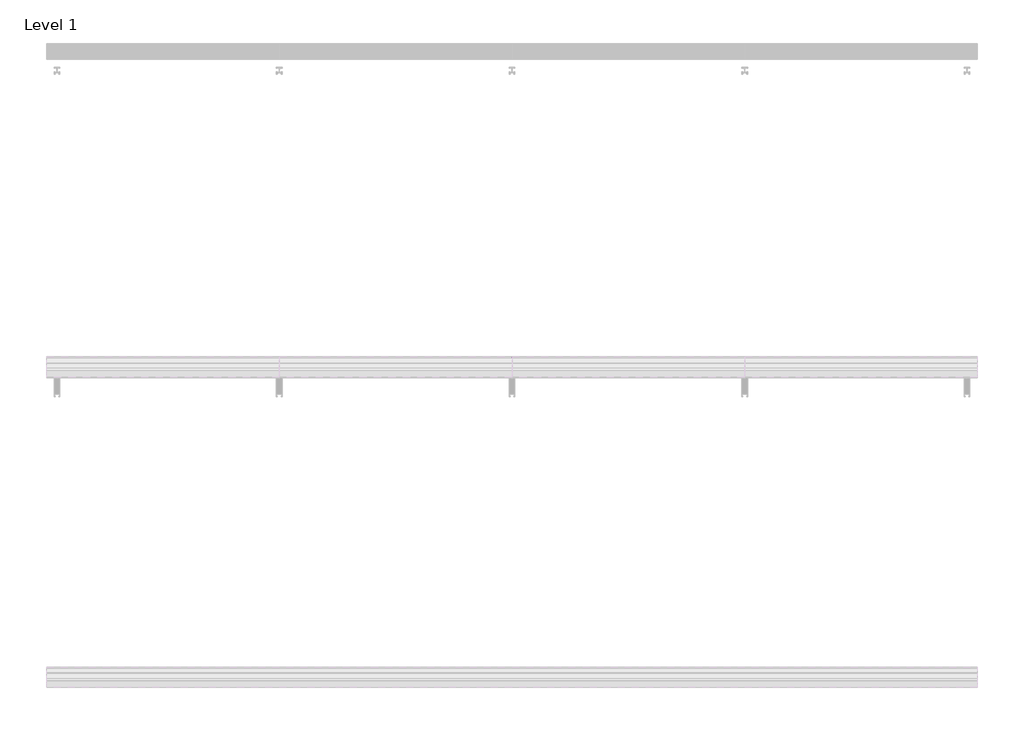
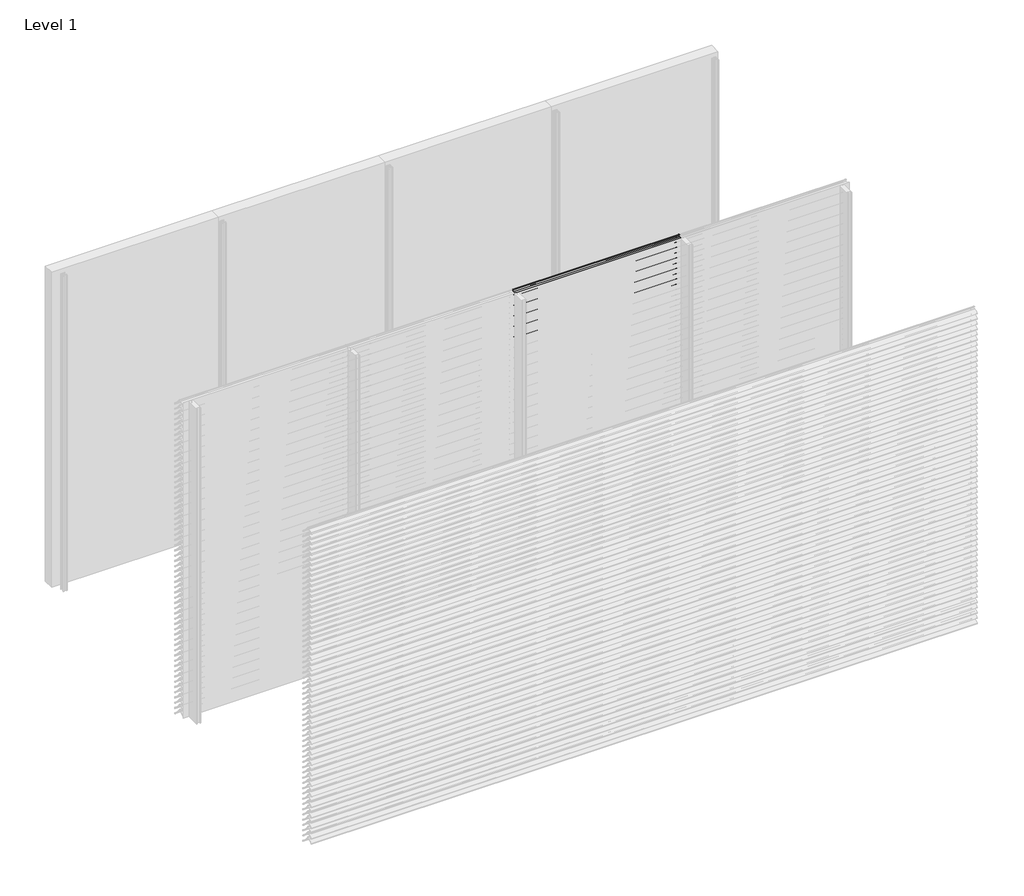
# One storey, part 30 of 173: 18 proxies.
"""IFC4 building model written with IfcOpenShell, lengths in millimetres."""

from ifc_helpers import new_model, si_unit, point, frame, frame_2d, origin, place, context, project, spatial, polyline, circle_curve, trimmed, segment, composite_curve, outline, extrude, element, save

model = new_model("IFC4")

# Units and contexts
model_context = context("Model", 3, world=origin())
ifc_project = project(units=[si_unit("LENGTHUNIT", "METRE", prefix="MILLI")], contexts=[model_context])

# Site, building, storey
site = spatial("IfcSite", under=ifc_project)
building = spatial("IfcBuilding", under=site)
storey = spatial("IfcBuildingStorey", under=building, Name="Level 1", Elevation=0.0)

# Proxies
placement = place(None, origin())
element("IfcBuildingElementProxy", 1, Name="Wall Sweeps", at=placement, inside=storey, context=model_context, shape_type="SweptSolid", body=[
    extrude(outline(composite_curve([segment(polyline([(-47998.0, 359.1474905), (-47998.0, 361.6227417)]), True, "CONTINUOUS"), segment(trimmed(circle_curve(frame_2d((-47951.2682172, 316.2200208)), 65.1557103), [point((-47998.0, 361.6227417))], [point((-47954.4014323, 381.3003524))], False, "CARTESIAN"), True, "CONTINUOUS"), segment(polyline([(-47954.4014323, 381.3003524), (-47934.8315836, 381.3003524)]), True, "CONTINUOUS"), segment(trimmed(circle_curve(frame_2d((-47732.7329489, 528.5533172)), 250.0545817), [point((-47934.8315836, 381.3003524))], [point((-47941.4452143, 390.8344583))], False, "CARTESIAN"), True, "CONTINUOUS"), segment(trimmed(circle_curve(frame_2d((-47953.2981792, 385.1737835)), 13.1352966), [point((-47941.4452143, 390.8344583))], [point((-47953.8171475, 398.298824))], True, "CARTESIAN"), True, "CONTINUOUS"), segment(polyline([(-47953.8171475, 398.298824), (-47953.8171475, 400.0)]), True, "CONTINUOUS"), segment(trimmed(circle_curve(frame_2d((-47953.2981792, 385.1737835)), 14.8352966), [point((-47953.8171475, 400.0))], [point((-47939.9637661, 391.6760487))], False, "CARTESIAN"), True, "CONTINUOUS"), segment(trimmed(circle_curve(frame_2d((-47732.7329489, 528.5533172)), 248.3545817), [point((-47939.9637661, 391.6760487))], [point((-47873.8787895, 324.2059416))], True, "CARTESIAN"), True, "CONTINUOUS"), segment(trimmed(circle_curve(frame_2d((-47883.8147537, 311.6649442)), 16.0), [point((-47873.8787895, 324.2059416))], [point((-47867.8648347, 310.4))], False, "CARTESIAN"), True, "CONTINUOUS"), segment(polyline([(-47867.8648347, 310.4), (-47869.6712069, 310.4)]), True, "CONTINUOUS"), segment(trimmed(circle_curve(frame_2d((-47883.8147537, 311.6649442)), 14.2), [point((-47869.6712069, 310.4))], [point((-47874.9518628, 322.7594998))], True, "CARTESIAN"), True, "CONTINUOUS"), segment(trimmed(circle_curve(frame_2d((-47732.7329489, 528.5533172)), 250.1545817), [point((-47874.9518628, 322.7594998))], [point((-47933.7064024, 379.6003524))], False, "CARTESIAN"), True, "CONTINUOUS"), segment(polyline([(-47933.7064024, 379.6003524), (-47954.3602632, 379.6003524)]), True, "CONTINUOUS"), segment(trimmed(circle_curve(frame_2d((-47951.2682172, 316.2200208)), 63.4557103), [point((-47954.3602632, 379.6003524))], [point((-47998.0, 359.1474905))], True, "CARTESIAN"), True, "CONTINUOUS")], self_intersect=False)), frame((1500.0, 0.0, 0.0), z_axis=(1.0, 0.0, 0.0), x_axis=(0.0, 1.0, 0.0)), (0.0, 0.0, 1.0), 1500.0),
])
element("IfcBuildingElementProxy", 2, Name="Wall Sweeps", at=placement, inside=storey, context=model_context, shape_type="SweptSolid", body=[
    extrude(outline(composite_curve([segment(polyline([(-47998.0, 309.1474905), (-47998.0, 311.6227417)]), True, "CONTINUOUS"), segment(trimmed(circle_curve(frame_2d((-47951.2682172, 266.2200208)), 65.1557103), [point((-47998.0, 311.6227417))], [point((-47954.4014323, 331.3003524))], False, "CARTESIAN"), True, "CONTINUOUS"), segment(polyline([(-47954.4014323, 331.3003524), (-47934.8315836, 331.3003524)]), True, "CONTINUOUS"), segment(trimmed(circle_curve(frame_2d((-47732.7329489, 478.5533172)), 250.0545817), [point((-47934.8315836, 331.3003524))], [point((-47941.4452143, 340.8344583))], False, "CARTESIAN"), True, "CONTINUOUS"), segment(trimmed(circle_curve(frame_2d((-47953.2981792, 335.1737835)), 13.1352966), [point((-47941.4452143, 340.8344583))], [point((-47953.8171475, 348.298824))], True, "CARTESIAN"), True, "CONTINUOUS"), segment(polyline([(-47953.8171475, 348.298824), (-47953.8171475, 350.0)]), True, "CONTINUOUS"), segment(trimmed(circle_curve(frame_2d((-47953.2981792, 335.1737835)), 14.8352966), [point((-47953.8171475, 350.0))], [point((-47939.9637661, 341.6760487))], False, "CARTESIAN"), True, "CONTINUOUS"), segment(trimmed(circle_curve(frame_2d((-47732.7329489, 478.5533172)), 248.3545817), [point((-47939.9637661, 341.6760487))], [point((-47873.8787895, 274.2059416))], True, "CARTESIAN"), True, "CONTINUOUS"), segment(trimmed(circle_curve(frame_2d((-47883.8147537, 261.6649442)), 16.0), [point((-47873.8787895, 274.2059416))], [point((-47867.8648347, 260.4))], False, "CARTESIAN"), True, "CONTINUOUS"), segment(polyline([(-47867.8648347, 260.4), (-47869.6712069, 260.4)]), True, "CONTINUOUS"), segment(trimmed(circle_curve(frame_2d((-47883.8147537, 261.6649442)), 14.2), [point((-47869.6712069, 260.4))], [point((-47874.9518628, 272.7594998))], True, "CARTESIAN"), True, "CONTINUOUS"), segment(trimmed(circle_curve(frame_2d((-47732.7329489, 478.5533172)), 250.1545817), [point((-47874.9518628, 272.7594998))], [point((-47933.7064024, 329.6003524))], False, "CARTESIAN"), True, "CONTINUOUS"), segment(polyline([(-47933.7064024, 329.6003524), (-47954.3602632, 329.6003524)]), True, "CONTINUOUS"), segment(trimmed(circle_curve(frame_2d((-47951.2682172, 266.2200208)), 63.4557103), [point((-47954.3602632, 329.6003524))], [point((-47998.0, 309.1474905))], True, "CARTESIAN"), True, "CONTINUOUS")], self_intersect=False)), frame((1500.0, 0.0, 0.0), z_axis=(1.0, 0.0, 0.0), x_axis=(0.0, 1.0, 0.0)), (0.0, 0.0, 1.0), 1500.0),
])
element("IfcBuildingElementProxy", 3, Name="Wall Sweeps", at=placement, inside=storey, context=model_context, shape_type="SweptSolid", body=[
    extrude(outline(composite_curve([segment(polyline([(-47998.0, 259.1474905), (-47998.0, 261.6227417)]), True, "CONTINUOUS"), segment(trimmed(circle_curve(frame_2d((-47951.2682172, 216.2200208)), 65.1557103), [point((-47998.0, 261.6227417))], [point((-47954.4014323, 281.3003524))], False, "CARTESIAN"), True, "CONTINUOUS"), segment(polyline([(-47954.4014323, 281.3003524), (-47934.8315836, 281.3003524)]), True, "CONTINUOUS"), segment(trimmed(circle_curve(frame_2d((-47732.7329489, 428.5533172)), 250.0545817), [point((-47934.8315836, 281.3003524))], [point((-47941.4452143, 290.8344583))], False, "CARTESIAN"), True, "CONTINUOUS"), segment(trimmed(circle_curve(frame_2d((-47953.2981792, 285.1737835)), 13.1352966), [point((-47941.4452143, 290.8344583))], [point((-47953.8171475, 298.298824))], True, "CARTESIAN"), True, "CONTINUOUS"), segment(polyline([(-47953.8171475, 298.298824), (-47953.8171475, 300.0)]), True, "CONTINUOUS"), segment(trimmed(circle_curve(frame_2d((-47953.2981792, 285.1737835)), 14.8352966), [point((-47953.8171475, 300.0))], [point((-47939.9637661, 291.6760487))], False, "CARTESIAN"), True, "CONTINUOUS"), segment(trimmed(circle_curve(frame_2d((-47732.7329489, 428.5533172)), 248.3545817), [point((-47939.9637661, 291.6760487))], [point((-47873.8787895, 224.2059416))], True, "CARTESIAN"), True, "CONTINUOUS"), segment(trimmed(circle_curve(frame_2d((-47883.8147537, 211.6649442)), 16.0), [point((-47873.8787895, 224.2059416))], [point((-47867.8648347, 210.4))], False, "CARTESIAN"), True, "CONTINUOUS"), segment(polyline([(-47867.8648347, 210.4), (-47869.6712069, 210.4)]), True, "CONTINUOUS"), segment(trimmed(circle_curve(frame_2d((-47883.8147537, 211.6649442)), 14.2), [point((-47869.6712069, 210.4))], [point((-47874.9518628, 222.7594998))], True, "CARTESIAN"), True, "CONTINUOUS"), segment(trimmed(circle_curve(frame_2d((-47732.7329489, 428.5533172)), 250.1545817), [point((-47874.9518628, 222.7594998))], [point((-47933.7064024, 279.6003524))], False, "CARTESIAN"), True, "CONTINUOUS"), segment(polyline([(-47933.7064024, 279.6003524), (-47954.3602632, 279.6003524)]), True, "CONTINUOUS"), segment(trimmed(circle_curve(frame_2d((-47951.2682172, 216.2200208)), 63.4557103), [point((-47954.3602632, 279.6003524))], [point((-47998.0, 259.1474905))], True, "CARTESIAN"), True, "CONTINUOUS")], self_intersect=False)), frame((1500.0, 0.0, 0.0), z_axis=(1.0, 0.0, 0.0), x_axis=(0.0, 1.0, 0.0)), (0.0, 0.0, 1.0), 1500.0),
])
element("IfcBuildingElementProxy", 4, Name="Wall Sweeps", at=placement, inside=storey, context=model_context, shape_type="SweptSolid", body=[
    extrude(outline(composite_curve([segment(polyline([(-47998.0, 209.1474905), (-47998.0, 211.6227417)]), True, "CONTINUOUS"), segment(trimmed(circle_curve(frame_2d((-47951.2682172, 166.2200208)), 65.1557103), [point((-47998.0, 211.6227417))], [point((-47954.4014323, 231.3003524))], False, "CARTESIAN"), True, "CONTINUOUS"), segment(polyline([(-47954.4014323, 231.3003524), (-47934.8315836, 231.3003524)]), True, "CONTINUOUS"), segment(trimmed(circle_curve(frame_2d((-47732.7329489, 378.5533172)), 250.0545817), [point((-47934.8315836, 231.3003524))], [point((-47941.4452143, 240.8344583))], False, "CARTESIAN"), True, "CONTINUOUS"), segment(trimmed(circle_curve(frame_2d((-47953.2981792, 235.1737835)), 13.1352966), [point((-47941.4452143, 240.8344583))], [point((-47953.8171475, 248.298824))], True, "CARTESIAN"), True, "CONTINUOUS"), segment(polyline([(-47953.8171475, 248.298824), (-47953.8171475, 250.0)]), True, "CONTINUOUS"), segment(trimmed(circle_curve(frame_2d((-47953.2981792, 235.1737835)), 14.8352966), [point((-47953.8171475, 250.0))], [point((-47939.9637661, 241.6760487))], False, "CARTESIAN"), True, "CONTINUOUS"), segment(trimmed(circle_curve(frame_2d((-47732.7329489, 378.5533172)), 248.3545817), [point((-47939.9637661, 241.6760487))], [point((-47873.8787895, 174.2059416))], True, "CARTESIAN"), True, "CONTINUOUS"), segment(trimmed(circle_curve(frame_2d((-47883.8147537, 161.6649442)), 16.0), [point((-47873.8787895, 174.2059416))], [point((-47867.8648347, 160.4))], False, "CARTESIAN"), True, "CONTINUOUS"), segment(polyline([(-47867.8648347, 160.4), (-47869.6712069, 160.4)]), True, "CONTINUOUS"), segment(trimmed(circle_curve(frame_2d((-47883.8147537, 161.6649442)), 14.2), [point((-47869.6712069, 160.4))], [point((-47874.9518628, 172.7594998))], True, "CARTESIAN"), True, "CONTINUOUS"), segment(trimmed(circle_curve(frame_2d((-47732.7329489, 378.5533172)), 250.1545817), [point((-47874.9518628, 172.7594998))], [point((-47933.7064024, 229.6003524))], False, "CARTESIAN"), True, "CONTINUOUS"), segment(polyline([(-47933.7064024, 229.6003524), (-47954.3602632, 229.6003524)]), True, "CONTINUOUS"), segment(trimmed(circle_curve(frame_2d((-47951.2682172, 166.2200208)), 63.4557103), [point((-47954.3602632, 229.6003524))], [point((-47998.0, 209.1474905))], True, "CARTESIAN"), True, "CONTINUOUS")], self_intersect=False)), frame((1500.0, 0.0, 0.0), z_axis=(1.0, 0.0, 0.0), x_axis=(0.0, 1.0, 0.0)), (0.0, 0.0, 1.0), 1500.0),
])
element("IfcBuildingElementProxy", 5, Name="Wall Sweeps", at=placement, inside=storey, context=model_context, shape_type="SweptSolid", body=[
    extrude(outline(composite_curve([segment(polyline([(-47998.0, 159.1474905), (-47998.0, 161.6227417)]), True, "CONTINUOUS"), segment(trimmed(circle_curve(frame_2d((-47951.2682172, 116.2200208)), 65.1557103), [point((-47998.0, 161.6227417))], [point((-47954.4014323, 181.3003524))], False, "CARTESIAN"), True, "CONTINUOUS"), segment(polyline([(-47954.4014323, 181.3003524), (-47934.8315836, 181.3003524)]), True, "CONTINUOUS"), segment(trimmed(circle_curve(frame_2d((-47732.7329489, 328.5533172)), 250.0545817), [point((-47934.8315836, 181.3003524))], [point((-47941.4452143, 190.8344583))], False, "CARTESIAN"), True, "CONTINUOUS"), segment(trimmed(circle_curve(frame_2d((-47953.2981792, 185.1737835)), 13.1352966), [point((-47941.4452143, 190.8344583))], [point((-47953.8171475, 198.298824))], True, "CARTESIAN"), True, "CONTINUOUS"), segment(polyline([(-47953.8171475, 198.298824), (-47953.8171475, 200.0)]), True, "CONTINUOUS"), segment(trimmed(circle_curve(frame_2d((-47953.2981792, 185.1737835)), 14.8352966), [point((-47953.8171475, 200.0))], [point((-47939.9637661, 191.6760487))], False, "CARTESIAN"), True, "CONTINUOUS"), segment(trimmed(circle_curve(frame_2d((-47732.7329489, 328.5533172)), 248.3545817), [point((-47939.9637661, 191.6760487))], [point((-47873.8787895, 124.2059416))], True, "CARTESIAN"), True, "CONTINUOUS"), segment(trimmed(circle_curve(frame_2d((-47883.8147537, 111.6649442)), 16.0), [point((-47873.8787895, 124.2059416))], [point((-47867.8648347, 110.4))], False, "CARTESIAN"), True, "CONTINUOUS"), segment(polyline([(-47867.8648347, 110.4), (-47869.6712069, 110.4)]), True, "CONTINUOUS"), segment(trimmed(circle_curve(frame_2d((-47883.8147537, 111.6649442)), 14.2), [point((-47869.6712069, 110.4))], [point((-47874.9518628, 122.7594998))], True, "CARTESIAN"), True, "CONTINUOUS"), segment(trimmed(circle_curve(frame_2d((-47732.7329489, 328.5533172)), 250.1545817), [point((-47874.9518628, 122.7594998))], [point((-47933.7064024, 179.6003524))], False, "CARTESIAN"), True, "CONTINUOUS"), segment(polyline([(-47933.7064024, 179.6003524), (-47954.3602632, 179.6003524)]), True, "CONTINUOUS"), segment(trimmed(circle_curve(frame_2d((-47951.2682172, 116.2200208)), 63.4557103), [point((-47954.3602632, 179.6003524))], [point((-47998.0, 159.1474905))], True, "CARTESIAN"), True, "CONTINUOUS")], self_intersect=False)), frame((1500.0, 0.0, 0.0), z_axis=(1.0, 0.0, 0.0), x_axis=(0.0, 1.0, 0.0)), (0.0, 0.0, 1.0), 1500.0),
])
element("IfcBuildingElementProxy", 6, Name="Wall Sweeps", at=placement, inside=storey, context=model_context, shape_type="SweptSolid", body=[
    extrude(outline(composite_curve([segment(polyline([(-47998.0, 109.1474905), (-47998.0, 111.6227417)]), True, "CONTINUOUS"), segment(trimmed(circle_curve(frame_2d((-47951.2682172, 66.2200208)), 65.1557103), [point((-47998.0, 111.6227417))], [point((-47954.4014323, 131.3003524))], False, "CARTESIAN"), True, "CONTINUOUS"), segment(polyline([(-47954.4014323, 131.3003524), (-47934.8315836, 131.3003524)]), True, "CONTINUOUS"), segment(trimmed(circle_curve(frame_2d((-47732.7329489, 278.5533172)), 250.0545817), [point((-47934.8315836, 131.3003524))], [point((-47941.4452143, 140.8344583))], False, "CARTESIAN"), True, "CONTINUOUS"), segment(trimmed(circle_curve(frame_2d((-47953.2981792, 135.1737835)), 13.1352966), [point((-47941.4452143, 140.8344583))], [point((-47953.8171475, 148.298824))], True, "CARTESIAN"), True, "CONTINUOUS"), segment(polyline([(-47953.8171475, 148.298824), (-47953.8171475, 150.0)]), True, "CONTINUOUS"), segment(trimmed(circle_curve(frame_2d((-47953.2981792, 135.1737835)), 14.8352966), [point((-47953.8171475, 150.0))], [point((-47939.9637661, 141.6760487))], False, "CARTESIAN"), True, "CONTINUOUS"), segment(trimmed(circle_curve(frame_2d((-47732.7329489, 278.5533172)), 248.3545817), [point((-47939.9637661, 141.6760487))], [point((-47873.8787895, 74.2059416))], True, "CARTESIAN"), True, "CONTINUOUS"), segment(trimmed(circle_curve(frame_2d((-47883.8147537, 61.6649442)), 16.0), [point((-47873.8787895, 74.2059416))], [point((-47867.8648347, 60.4))], False, "CARTESIAN"), True, "CONTINUOUS"), segment(polyline([(-47867.8648347, 60.4), (-47869.6712069, 60.4)]), True, "CONTINUOUS"), segment(trimmed(circle_curve(frame_2d((-47883.8147537, 61.6649442)), 14.2), [point((-47869.6712069, 60.4))], [point((-47874.9518628, 72.7594998))], True, "CARTESIAN"), True, "CONTINUOUS"), segment(trimmed(circle_curve(frame_2d((-47732.7329489, 278.5533172)), 250.1545817), [point((-47874.9518628, 72.7594998))], [point((-47933.7064024, 129.6003524))], False, "CARTESIAN"), True, "CONTINUOUS"), segment(polyline([(-47933.7064024, 129.6003524), (-47954.3602632, 129.6003524)]), True, "CONTINUOUS"), segment(trimmed(circle_curve(frame_2d((-47951.2682172, 66.2200208)), 63.4557103), [point((-47954.3602632, 129.6003524))], [point((-47998.0, 109.1474905))], True, "CARTESIAN"), True, "CONTINUOUS")], self_intersect=False)), frame((1500.0, 0.0, 0.0), z_axis=(1.0, 0.0, 0.0), x_axis=(0.0, 1.0, 0.0)), (0.0, 0.0, 1.0), 1500.0),
])
element("IfcBuildingElementProxy", 7, Name="Wall Sweeps", at=placement, inside=storey, context=model_context, shape_type="SweptSolid", body=[
    extrude(outline(composite_curve([segment(polyline([(-47998.0, 59.1474905), (-47998.0, 61.6227417)]), True, "CONTINUOUS"), segment(trimmed(circle_curve(frame_2d((-47951.2682172, 16.2200208)), 65.1557103), [point((-47998.0, 61.6227417))], [point((-47954.4014323, 81.3003524))], False, "CARTESIAN"), True, "CONTINUOUS"), segment(polyline([(-47954.4014323, 81.3003524), (-47934.8315836, 81.3003524)]), True, "CONTINUOUS"), segment(trimmed(circle_curve(frame_2d((-47732.7329489, 228.5533172)), 250.0545817), [point((-47934.8315836, 81.3003524))], [point((-47941.4452143, 90.8344583))], False, "CARTESIAN"), True, "CONTINUOUS"), segment(trimmed(circle_curve(frame_2d((-47953.2981792, 85.1737835)), 13.1352966), [point((-47941.4452143, 90.8344583))], [point((-47953.8171475, 98.298824))], True, "CARTESIAN"), True, "CONTINUOUS"), segment(polyline([(-47953.8171475, 98.298824), (-47953.8171475, 100.0)]), True, "CONTINUOUS"), segment(trimmed(circle_curve(frame_2d((-47953.2981792, 85.1737835)), 14.8352966), [point((-47953.8171475, 100.0))], [point((-47939.9637661, 91.6760487))], False, "CARTESIAN"), True, "CONTINUOUS"), segment(trimmed(circle_curve(frame_2d((-47732.7329489, 228.5533172)), 248.3545817), [point((-47939.9637661, 91.6760487))], [point((-47873.8787895, 24.2059416))], True, "CARTESIAN"), True, "CONTINUOUS"), segment(trimmed(circle_curve(frame_2d((-47883.8147537, 11.6649442)), 16.0), [point((-47873.8787895, 24.2059416))], [point((-47867.8648347, 10.4))], False, "CARTESIAN"), True, "CONTINUOUS"), segment(polyline([(-47867.8648347, 10.4), (-47869.6712069, 10.4)]), True, "CONTINUOUS"), segment(trimmed(circle_curve(frame_2d((-47883.8147537, 11.6649442)), 14.2), [point((-47869.6712069, 10.4))], [point((-47874.9518628, 22.7594998))], True, "CARTESIAN"), True, "CONTINUOUS"), segment(trimmed(circle_curve(frame_2d((-47732.7329489, 228.5533172)), 250.1545817), [point((-47874.9518628, 22.7594998))], [point((-47933.7064024, 79.6003524))], False, "CARTESIAN"), True, "CONTINUOUS"), segment(polyline([(-47933.7064024, 79.6003524), (-47954.3602632, 79.6003524)]), True, "CONTINUOUS"), segment(trimmed(circle_curve(frame_2d((-47951.2682172, 16.2200208)), 63.4557103), [point((-47954.3602632, 79.6003524))], [point((-47998.0, 59.1474905))], True, "CARTESIAN"), True, "CONTINUOUS")], self_intersect=False)), frame((1500.0, 0.0, 0.0), z_axis=(1.0, 0.0, 0.0), x_axis=(0.0, 1.0, 0.0)), (0.0, 0.0, 1.0), 1500.0),
])
element("IfcBuildingElementProxy", 8, Name="Wall Sweeps", at=placement, inside=storey, context=model_context, shape_type="SweptSolid", body=[
    extrude(outline(composite_curve([segment(polyline([(-47998.0, 9.1474905), (-47998.0, 11.6227417)]), True, "CONTINUOUS"), segment(trimmed(circle_curve(frame_2d((-47951.2682172, -33.7799792)), 65.1557103), [point((-47998.0, 11.6227417))], [point((-47954.4014323, 31.3003524))], False, "CARTESIAN"), True, "CONTINUOUS"), segment(polyline([(-47954.4014323, 31.3003524), (-47934.8315836, 31.3003524)]), True, "CONTINUOUS"), segment(trimmed(circle_curve(frame_2d((-47732.7329489, 178.5533172)), 250.0545817), [point((-47934.8315836, 31.3003524))], [point((-47941.4452143, 40.8344583))], False, "CARTESIAN"), True, "CONTINUOUS"), segment(trimmed(circle_curve(frame_2d((-47953.2981792, 35.1737835)), 13.1352966), [point((-47941.4452143, 40.8344583))], [point((-47953.8171475, 48.298824))], True, "CARTESIAN"), True, "CONTINUOUS"), segment(polyline([(-47953.8171475, 48.298824), (-47953.8171475, 50.0)]), True, "CONTINUOUS"), segment(trimmed(circle_curve(frame_2d((-47953.2981792, 35.1737835)), 14.8352966), [point((-47953.8171475, 50.0))], [point((-47939.9637661, 41.6760487))], False, "CARTESIAN"), True, "CONTINUOUS"), segment(trimmed(circle_curve(frame_2d((-47732.7329489, 178.5533172)), 248.3545817), [point((-47939.9637661, 41.6760487))], [point((-47873.8787895, -25.7940584))], True, "CARTESIAN"), True, "CONTINUOUS"), segment(trimmed(circle_curve(frame_2d((-47883.8147537, -38.3350558)), 16.0), [point((-47873.8787895, -25.7940584))], [point((-47867.8648347, -39.6))], False, "CARTESIAN"), True, "CONTINUOUS"), segment(polyline([(-47867.8648347, -39.6), (-47869.6712069, -39.6)]), True, "CONTINUOUS"), segment(trimmed(circle_curve(frame_2d((-47883.8147537, -38.3350558)), 14.2), [point((-47869.6712069, -39.6))], [point((-47874.9518628, -27.2405002))], True, "CARTESIAN"), True, "CONTINUOUS"), segment(trimmed(circle_curve(frame_2d((-47732.7329489, 178.5533172)), 250.1545817), [point((-47874.9518628, -27.2405002))], [point((-47933.7064024, 29.6003524))], False, "CARTESIAN"), True, "CONTINUOUS"), segment(polyline([(-47933.7064024, 29.6003524), (-47954.3602632, 29.6003524)]), True, "CONTINUOUS"), segment(trimmed(circle_curve(frame_2d((-47951.2682172, -33.7799792)), 63.4557103), [point((-47954.3602632, 29.6003524))], [point((-47998.0, 9.1474905))], True, "CARTESIAN"), True, "CONTINUOUS")], self_intersect=False)), frame((1500.0, 0.0, 0.0), z_axis=(1.0, 0.0, 0.0), x_axis=(0.0, 1.0, 0.0)), (0.0, 0.0, 1.0), 1500.0),
])
element("IfcBuildingElementProxy", 9, Name="Wall Sweeps", at=placement, inside=storey, context=model_context, shape_type="SweptSolid", body=[
    extrude(outline(composite_curve([segment(polyline([(-47998.0, 2959.1474905), (-47998.0, 2961.6227417)]), True, "CONTINUOUS"), segment(trimmed(circle_curve(frame_2d((-47951.2682172, 2916.2200208)), 65.1557103), [point((-47998.0, 2961.6227417))], [point((-47954.4014323, 2981.3003524))], False, "CARTESIAN"), True, "CONTINUOUS"), segment(polyline([(-47954.4014323, 2981.3003524), (-47934.8315836, 2981.3003524)]), True, "CONTINUOUS"), segment(trimmed(circle_curve(frame_2d((-47732.7329489, 3128.5533172)), 250.0545817), [point((-47934.8315836, 2981.3003524))], [point((-47941.4452143, 2990.8344583))], False, "CARTESIAN"), True, "CONTINUOUS"), segment(trimmed(circle_curve(frame_2d((-47953.2981792, 2985.1737835)), 13.1352966), [point((-47941.4452143, 2990.8344583))], [point((-47953.8171475, 2998.298824))], True, "CARTESIAN"), True, "CONTINUOUS"), segment(polyline([(-47953.8171475, 2998.298824), (-47953.8171475, 3000.0)]), True, "CONTINUOUS"), segment(trimmed(circle_curve(frame_2d((-47953.2981792, 2985.1737835)), 14.8352966), [point((-47953.8171475, 3000.0))], [point((-47939.9637661, 2991.6760487))], False, "CARTESIAN"), True, "CONTINUOUS"), segment(trimmed(circle_curve(frame_2d((-47732.7329489, 3128.5533172)), 248.3545817), [point((-47939.9637661, 2991.6760487))], [point((-47873.8787895, 2924.2059416))], True, "CARTESIAN"), True, "CONTINUOUS"), segment(trimmed(circle_curve(frame_2d((-47883.8147537, 2911.6649442)), 16.0), [point((-47873.8787895, 2924.2059416))], [point((-47867.8648347, 2910.4))], False, "CARTESIAN"), True, "CONTINUOUS"), segment(polyline([(-47867.8648347, 2910.4), (-47869.6712069, 2910.4)]), True, "CONTINUOUS"), segment(trimmed(circle_curve(frame_2d((-47883.8147537, 2911.6649442)), 14.2), [point((-47869.6712069, 2910.4))], [point((-47874.9518628, 2922.7594998))], True, "CARTESIAN"), True, "CONTINUOUS"), segment(trimmed(circle_curve(frame_2d((-47732.7329489, 3128.5533172)), 250.1545817), [point((-47874.9518628, 2922.7594998))], [point((-47933.7064024, 2979.6003524))], False, "CARTESIAN"), True, "CONTINUOUS"), segment(polyline([(-47933.7064024, 2979.6003524), (-47954.3602632, 2979.6003524)]), True, "CONTINUOUS"), segment(trimmed(circle_curve(frame_2d((-47951.2682172, 2916.2200208)), 63.4557103), [point((-47954.3602632, 2979.6003524))], [point((-47998.0, 2959.1474905))], True, "CARTESIAN"), True, "CONTINUOUS")], self_intersect=False)), frame((3000.0, 0.0, 0.0), z_axis=(1.0, 0.0, 0.0), x_axis=(0.0, 1.0, 0.0)), (0.0, 0.0, 1.0), 1500.0),
])
element("IfcBuildingElementProxy", 10, Name="Wall Sweeps", at=placement, inside=storey, context=model_context, shape_type="SweptSolid", body=[
    extrude(outline(composite_curve([segment(polyline([(-47998.0, 2909.1474905), (-47998.0, 2911.6227417)]), True, "CONTINUOUS"), segment(trimmed(circle_curve(frame_2d((-47951.2682172, 2866.2200208)), 65.1557103), [point((-47998.0, 2911.6227417))], [point((-47954.4014323, 2931.3003524))], False, "CARTESIAN"), True, "CONTINUOUS"), segment(polyline([(-47954.4014323, 2931.3003524), (-47934.8315836, 2931.3003524)]), True, "CONTINUOUS"), segment(trimmed(circle_curve(frame_2d((-47732.7329489, 3078.5533172)), 250.0545817), [point((-47934.8315836, 2931.3003524))], [point((-47941.4452143, 2940.8344583))], False, "CARTESIAN"), True, "CONTINUOUS"), segment(trimmed(circle_curve(frame_2d((-47953.2981792, 2935.1737835)), 13.1352966), [point((-47941.4452143, 2940.8344583))], [point((-47953.8171475, 2948.298824))], True, "CARTESIAN"), True, "CONTINUOUS"), segment(polyline([(-47953.8171475, 2948.298824), (-47953.8171475, 2950.0)]), True, "CONTINUOUS"), segment(trimmed(circle_curve(frame_2d((-47953.2981792, 2935.1737835)), 14.8352966), [point((-47953.8171475, 2950.0))], [point((-47939.9637661, 2941.6760487))], False, "CARTESIAN"), True, "CONTINUOUS"), segment(trimmed(circle_curve(frame_2d((-47732.7329489, 3078.5533172)), 248.3545817), [point((-47939.9637661, 2941.6760487))], [point((-47873.8787895, 2874.2059416))], True, "CARTESIAN"), True, "CONTINUOUS"), segment(trimmed(circle_curve(frame_2d((-47883.8147537, 2861.6649442)), 16.0), [point((-47873.8787895, 2874.2059416))], [point((-47867.8648347, 2860.4))], False, "CARTESIAN"), True, "CONTINUOUS"), segment(polyline([(-47867.8648347, 2860.4), (-47869.6712069, 2860.4)]), True, "CONTINUOUS"), segment(trimmed(circle_curve(frame_2d((-47883.8147537, 2861.6649442)), 14.2), [point((-47869.6712069, 2860.4))], [point((-47874.9518628, 2872.7594998))], True, "CARTESIAN"), True, "CONTINUOUS"), segment(trimmed(circle_curve(frame_2d((-47732.7329489, 3078.5533172)), 250.1545817), [point((-47874.9518628, 2872.7594998))], [point((-47933.7064024, 2929.6003524))], False, "CARTESIAN"), True, "CONTINUOUS"), segment(polyline([(-47933.7064024, 2929.6003524), (-47954.3602632, 2929.6003524)]), True, "CONTINUOUS"), segment(trimmed(circle_curve(frame_2d((-47951.2682172, 2866.2200208)), 63.4557103), [point((-47954.3602632, 2929.6003524))], [point((-47998.0, 2909.1474905))], True, "CARTESIAN"), True, "CONTINUOUS")], self_intersect=False)), frame((3000.0, 0.0, 0.0), z_axis=(1.0, 0.0, 0.0), x_axis=(0.0, 1.0, 0.0)), (0.0, 0.0, 1.0), 1500.0),
])
element("IfcBuildingElementProxy", 11, Name="Wall Sweeps", at=placement, inside=storey, context=model_context, shape_type="SweptSolid", body=[
    extrude(outline(composite_curve([segment(polyline([(-47998.0, 2859.1474905), (-47998.0, 2861.6227417)]), True, "CONTINUOUS"), segment(trimmed(circle_curve(frame_2d((-47951.2682172, 2816.2200208)), 65.1557103), [point((-47998.0, 2861.6227417))], [point((-47954.4014323, 2881.3003524))], False, "CARTESIAN"), True, "CONTINUOUS"), segment(polyline([(-47954.4014323, 2881.3003524), (-47934.8315836, 2881.3003524)]), True, "CONTINUOUS"), segment(trimmed(circle_curve(frame_2d((-47732.7329489, 3028.5533172)), 250.0545817), [point((-47934.8315836, 2881.3003524))], [point((-47941.4452143, 2890.8344583))], False, "CARTESIAN"), True, "CONTINUOUS"), segment(trimmed(circle_curve(frame_2d((-47953.2981792, 2885.1737835)), 13.1352966), [point((-47941.4452143, 2890.8344583))], [point((-47953.8171475, 2898.298824))], True, "CARTESIAN"), True, "CONTINUOUS"), segment(polyline([(-47953.8171475, 2898.298824), (-47953.8171475, 2900.0)]), True, "CONTINUOUS"), segment(trimmed(circle_curve(frame_2d((-47953.2981792, 2885.1737835)), 14.8352966), [point((-47953.8171475, 2900.0))], [point((-47939.9637661, 2891.6760487))], False, "CARTESIAN"), True, "CONTINUOUS"), segment(trimmed(circle_curve(frame_2d((-47732.7329489, 3028.5533172)), 248.3545817), [point((-47939.9637661, 2891.6760487))], [point((-47873.8787895, 2824.2059416))], True, "CARTESIAN"), True, "CONTINUOUS"), segment(trimmed(circle_curve(frame_2d((-47883.8147537, 2811.6649442)), 16.0), [point((-47873.8787895, 2824.2059416))], [point((-47867.8648347, 2810.4))], False, "CARTESIAN"), True, "CONTINUOUS"), segment(polyline([(-47867.8648347, 2810.4), (-47869.6712069, 2810.4)]), True, "CONTINUOUS"), segment(trimmed(circle_curve(frame_2d((-47883.8147537, 2811.6649442)), 14.2), [point((-47869.6712069, 2810.4))], [point((-47874.9518628, 2822.7594998))], True, "CARTESIAN"), True, "CONTINUOUS"), segment(trimmed(circle_curve(frame_2d((-47732.7329489, 3028.5533172)), 250.1545817), [point((-47874.9518628, 2822.7594998))], [point((-47933.7064024, 2879.6003524))], False, "CARTESIAN"), True, "CONTINUOUS"), segment(polyline([(-47933.7064024, 2879.6003524), (-47954.3602632, 2879.6003524)]), True, "CONTINUOUS"), segment(trimmed(circle_curve(frame_2d((-47951.2682172, 2816.2200208)), 63.4557103), [point((-47954.3602632, 2879.6003524))], [point((-47998.0, 2859.1474905))], True, "CARTESIAN"), True, "CONTINUOUS")], self_intersect=False)), frame((3000.0, 0.0, 0.0), z_axis=(1.0, 0.0, 0.0), x_axis=(0.0, 1.0, 0.0)), (0.0, 0.0, 1.0), 1500.0),
])
element("IfcBuildingElementProxy", 12, Name="Wall Sweeps", at=placement, inside=storey, context=model_context, shape_type="SweptSolid", body=[
    extrude(outline(composite_curve([segment(polyline([(-47998.0, 2809.1474905), (-47998.0, 2811.6227417)]), True, "CONTINUOUS"), segment(trimmed(circle_curve(frame_2d((-47951.2682172, 2766.2200208)), 65.1557103), [point((-47998.0, 2811.6227417))], [point((-47954.4014323, 2831.3003524))], False, "CARTESIAN"), True, "CONTINUOUS"), segment(polyline([(-47954.4014323, 2831.3003524), (-47934.8315836, 2831.3003524)]), True, "CONTINUOUS"), segment(trimmed(circle_curve(frame_2d((-47732.7329489, 2978.5533172)), 250.0545817), [point((-47934.8315836, 2831.3003524))], [point((-47941.4452143, 2840.8344583))], False, "CARTESIAN"), True, "CONTINUOUS"), segment(trimmed(circle_curve(frame_2d((-47953.2981792, 2835.1737835)), 13.1352966), [point((-47941.4452143, 2840.8344583))], [point((-47953.8171475, 2848.298824))], True, "CARTESIAN"), True, "CONTINUOUS"), segment(polyline([(-47953.8171475, 2848.298824), (-47953.8171475, 2850.0)]), True, "CONTINUOUS"), segment(trimmed(circle_curve(frame_2d((-47953.2981792, 2835.1737835)), 14.8352966), [point((-47953.8171475, 2850.0))], [point((-47939.9637661, 2841.6760487))], False, "CARTESIAN"), True, "CONTINUOUS"), segment(trimmed(circle_curve(frame_2d((-47732.7329489, 2978.5533172)), 248.3545817), [point((-47939.9637661, 2841.6760487))], [point((-47873.8787895, 2774.2059416))], True, "CARTESIAN"), True, "CONTINUOUS"), segment(trimmed(circle_curve(frame_2d((-47883.8147537, 2761.6649442)), 16.0), [point((-47873.8787895, 2774.2059416))], [point((-47867.8648347, 2760.4))], False, "CARTESIAN"), True, "CONTINUOUS"), segment(polyline([(-47867.8648347, 2760.4), (-47869.6712069, 2760.4)]), True, "CONTINUOUS"), segment(trimmed(circle_curve(frame_2d((-47883.8147537, 2761.6649442)), 14.2), [point((-47869.6712069, 2760.4))], [point((-47874.9518628, 2772.7594998))], True, "CARTESIAN"), True, "CONTINUOUS"), segment(trimmed(circle_curve(frame_2d((-47732.7329489, 2978.5533172)), 250.1545817), [point((-47874.9518628, 2772.7594998))], [point((-47933.7064024, 2829.6003524))], False, "CARTESIAN"), True, "CONTINUOUS"), segment(polyline([(-47933.7064024, 2829.6003524), (-47954.3602632, 2829.6003524)]), True, "CONTINUOUS"), segment(trimmed(circle_curve(frame_2d((-47951.2682172, 2766.2200208)), 63.4557103), [point((-47954.3602632, 2829.6003524))], [point((-47998.0, 2809.1474905))], True, "CARTESIAN"), True, "CONTINUOUS")], self_intersect=False)), frame((3000.0, 0.0, 0.0), z_axis=(1.0, 0.0, 0.0), x_axis=(0.0, 1.0, 0.0)), (0.0, 0.0, 1.0), 1500.0),
])
element("IfcBuildingElementProxy", 13, Name="Wall Sweeps", at=placement, inside=storey, context=model_context, shape_type="SweptSolid", body=[
    extrude(outline(composite_curve([segment(polyline([(-47998.0, 2759.1474905), (-47998.0, 2761.6227417)]), True, "CONTINUOUS"), segment(trimmed(circle_curve(frame_2d((-47951.2682172, 2716.2200208)), 65.1557103), [point((-47998.0, 2761.6227417))], [point((-47954.4014323, 2781.3003524))], False, "CARTESIAN"), True, "CONTINUOUS"), segment(polyline([(-47954.4014323, 2781.3003524), (-47934.8315836, 2781.3003524)]), True, "CONTINUOUS"), segment(trimmed(circle_curve(frame_2d((-47732.7329489, 2928.5533172)), 250.0545817), [point((-47934.8315836, 2781.3003524))], [point((-47941.4452143, 2790.8344583))], False, "CARTESIAN"), True, "CONTINUOUS"), segment(trimmed(circle_curve(frame_2d((-47953.2981792, 2785.1737835)), 13.1352966), [point((-47941.4452143, 2790.8344583))], [point((-47953.8171475, 2798.298824))], True, "CARTESIAN"), True, "CONTINUOUS"), segment(polyline([(-47953.8171475, 2798.298824), (-47953.8171475, 2800.0)]), True, "CONTINUOUS"), segment(trimmed(circle_curve(frame_2d((-47953.2981792, 2785.1737835)), 14.8352966), [point((-47953.8171475, 2800.0))], [point((-47939.9637661, 2791.6760487))], False, "CARTESIAN"), True, "CONTINUOUS"), segment(trimmed(circle_curve(frame_2d((-47732.7329489, 2928.5533172)), 248.3545817), [point((-47939.9637661, 2791.6760487))], [point((-47873.8787895, 2724.2059416))], True, "CARTESIAN"), True, "CONTINUOUS"), segment(trimmed(circle_curve(frame_2d((-47883.8147537, 2711.6649442)), 16.0), [point((-47873.8787895, 2724.2059416))], [point((-47867.8648347, 2710.4))], False, "CARTESIAN"), True, "CONTINUOUS"), segment(polyline([(-47867.8648347, 2710.4), (-47869.6712069, 2710.4)]), True, "CONTINUOUS"), segment(trimmed(circle_curve(frame_2d((-47883.8147537, 2711.6649442)), 14.2), [point((-47869.6712069, 2710.4))], [point((-47874.9518628, 2722.7594998))], True, "CARTESIAN"), True, "CONTINUOUS"), segment(trimmed(circle_curve(frame_2d((-47732.7329489, 2928.5533172)), 250.1545817), [point((-47874.9518628, 2722.7594998))], [point((-47933.7064024, 2779.6003524))], False, "CARTESIAN"), True, "CONTINUOUS"), segment(polyline([(-47933.7064024, 2779.6003524), (-47954.3602632, 2779.6003524)]), True, "CONTINUOUS"), segment(trimmed(circle_curve(frame_2d((-47951.2682172, 2716.2200208)), 63.4557103), [point((-47954.3602632, 2779.6003524))], [point((-47998.0, 2759.1474905))], True, "CARTESIAN"), True, "CONTINUOUS")], self_intersect=False)), frame((3000.0, 0.0, 0.0), z_axis=(1.0, 0.0, 0.0), x_axis=(0.0, 1.0, 0.0)), (0.0, 0.0, 1.0), 1500.0),
])
element("IfcBuildingElementProxy", 14, Name="Wall Sweeps", at=placement, inside=storey, context=model_context, shape_type="SweptSolid", body=[
    extrude(outline(composite_curve([segment(polyline([(-47998.0, 2709.1474905), (-47998.0, 2711.6227417)]), True, "CONTINUOUS"), segment(trimmed(circle_curve(frame_2d((-47951.2682172, 2666.2200208)), 65.1557103), [point((-47998.0, 2711.6227417))], [point((-47954.4014323, 2731.3003524))], False, "CARTESIAN"), True, "CONTINUOUS"), segment(polyline([(-47954.4014323, 2731.3003524), (-47934.8315836, 2731.3003524)]), True, "CONTINUOUS"), segment(trimmed(circle_curve(frame_2d((-47732.7329489, 2878.5533172)), 250.0545817), [point((-47934.8315836, 2731.3003524))], [point((-47941.4452143, 2740.8344583))], False, "CARTESIAN"), True, "CONTINUOUS"), segment(trimmed(circle_curve(frame_2d((-47953.2981792, 2735.1737835)), 13.1352966), [point((-47941.4452143, 2740.8344583))], [point((-47953.8171475, 2748.298824))], True, "CARTESIAN"), True, "CONTINUOUS"), segment(polyline([(-47953.8171475, 2748.298824), (-47953.8171475, 2750.0)]), True, "CONTINUOUS"), segment(trimmed(circle_curve(frame_2d((-47953.2981792, 2735.1737835)), 14.8352966), [point((-47953.8171475, 2750.0))], [point((-47939.9637661, 2741.6760487))], False, "CARTESIAN"), True, "CONTINUOUS"), segment(trimmed(circle_curve(frame_2d((-47732.7329489, 2878.5533172)), 248.3545817), [point((-47939.9637661, 2741.6760487))], [point((-47873.8787895, 2674.2059416))], True, "CARTESIAN"), True, "CONTINUOUS"), segment(trimmed(circle_curve(frame_2d((-47883.8147537, 2661.6649442)), 16.0), [point((-47873.8787895, 2674.2059416))], [point((-47867.8648347, 2660.4))], False, "CARTESIAN"), True, "CONTINUOUS"), segment(polyline([(-47867.8648347, 2660.4), (-47869.6712069, 2660.4)]), True, "CONTINUOUS"), segment(trimmed(circle_curve(frame_2d((-47883.8147537, 2661.6649442)), 14.2), [point((-47869.6712069, 2660.4))], [point((-47874.9518628, 2672.7594998))], True, "CARTESIAN"), True, "CONTINUOUS"), segment(trimmed(circle_curve(frame_2d((-47732.7329489, 2878.5533172)), 250.1545817), [point((-47874.9518628, 2672.7594998))], [point((-47933.7064024, 2729.6003524))], False, "CARTESIAN"), True, "CONTINUOUS"), segment(polyline([(-47933.7064024, 2729.6003524), (-47954.3602632, 2729.6003524)]), True, "CONTINUOUS"), segment(trimmed(circle_curve(frame_2d((-47951.2682172, 2666.2200208)), 63.4557103), [point((-47954.3602632, 2729.6003524))], [point((-47998.0, 2709.1474905))], True, "CARTESIAN"), True, "CONTINUOUS")], self_intersect=False)), frame((3000.0, 0.0, 0.0), z_axis=(1.0, 0.0, 0.0), x_axis=(0.0, 1.0, 0.0)), (0.0, 0.0, 1.0), 1500.0),
])
element("IfcBuildingElementProxy", 15, Name="Wall Sweeps", at=placement, inside=storey, context=model_context, shape_type="SweptSolid", body=[
    extrude(outline(composite_curve([segment(polyline([(-47998.0, 2659.1474905), (-47998.0, 2661.6227417)]), True, "CONTINUOUS"), segment(trimmed(circle_curve(frame_2d((-47951.2682172, 2616.2200208)), 65.1557103), [point((-47998.0, 2661.6227417))], [point((-47954.4014323, 2681.3003524))], False, "CARTESIAN"), True, "CONTINUOUS"), segment(polyline([(-47954.4014323, 2681.3003524), (-47934.8315836, 2681.3003524)]), True, "CONTINUOUS"), segment(trimmed(circle_curve(frame_2d((-47732.7329489, 2828.5533172)), 250.0545817), [point((-47934.8315836, 2681.3003524))], [point((-47941.4452143, 2690.8344583))], False, "CARTESIAN"), True, "CONTINUOUS"), segment(trimmed(circle_curve(frame_2d((-47953.2981792, 2685.1737835)), 13.1352966), [point((-47941.4452143, 2690.8344583))], [point((-47953.8171475, 2698.298824))], True, "CARTESIAN"), True, "CONTINUOUS"), segment(polyline([(-47953.8171475, 2698.298824), (-47953.8171475, 2700.0)]), True, "CONTINUOUS"), segment(trimmed(circle_curve(frame_2d((-47953.2981792, 2685.1737835)), 14.8352966), [point((-47953.8171475, 2700.0))], [point((-47939.9637661, 2691.6760487))], False, "CARTESIAN"), True, "CONTINUOUS"), segment(trimmed(circle_curve(frame_2d((-47732.7329489, 2828.5533172)), 248.3545817), [point((-47939.9637661, 2691.6760487))], [point((-47873.8787895, 2624.2059416))], True, "CARTESIAN"), True, "CONTINUOUS"), segment(trimmed(circle_curve(frame_2d((-47883.8147537, 2611.6649442)), 16.0), [point((-47873.8787895, 2624.2059416))], [point((-47867.8648347, 2610.4))], False, "CARTESIAN"), True, "CONTINUOUS"), segment(polyline([(-47867.8648347, 2610.4), (-47869.6712069, 2610.4)]), True, "CONTINUOUS"), segment(trimmed(circle_curve(frame_2d((-47883.8147537, 2611.6649442)), 14.2), [point((-47869.6712069, 2610.4))], [point((-47874.9518628, 2622.7594998))], True, "CARTESIAN"), True, "CONTINUOUS"), segment(trimmed(circle_curve(frame_2d((-47732.7329489, 2828.5533172)), 250.1545817), [point((-47874.9518628, 2622.7594998))], [point((-47933.7064024, 2679.6003524))], False, "CARTESIAN"), True, "CONTINUOUS"), segment(polyline([(-47933.7064024, 2679.6003524), (-47954.3602632, 2679.6003524)]), True, "CONTINUOUS"), segment(trimmed(circle_curve(frame_2d((-47951.2682172, 2616.2200208)), 63.4557103), [point((-47954.3602632, 2679.6003524))], [point((-47998.0, 2659.1474905))], True, "CARTESIAN"), True, "CONTINUOUS")], self_intersect=False)), frame((3000.0, 0.0, 0.0), z_axis=(1.0, 0.0, 0.0), x_axis=(0.0, 1.0, 0.0)), (0.0, 0.0, 1.0), 1500.0),
])
element("IfcBuildingElementProxy", 16, Name="Wall Sweeps", at=placement, inside=storey, context=model_context, shape_type="SweptSolid", body=[
    extrude(outline(composite_curve([segment(polyline([(-47998.0, 2609.1474905), (-47998.0, 2611.6227417)]), True, "CONTINUOUS"), segment(trimmed(circle_curve(frame_2d((-47951.2682172, 2566.2200208)), 65.1557103), [point((-47998.0, 2611.6227417))], [point((-47954.4014323, 2631.3003524))], False, "CARTESIAN"), True, "CONTINUOUS"), segment(polyline([(-47954.4014323, 2631.3003524), (-47934.8315836, 2631.3003524)]), True, "CONTINUOUS"), segment(trimmed(circle_curve(frame_2d((-47732.7329489, 2778.5533172)), 250.0545817), [point((-47934.8315836, 2631.3003524))], [point((-47941.4452143, 2640.8344583))], False, "CARTESIAN"), True, "CONTINUOUS"), segment(trimmed(circle_curve(frame_2d((-47953.2981792, 2635.1737835)), 13.1352966), [point((-47941.4452143, 2640.8344583))], [point((-47953.8171475, 2648.298824))], True, "CARTESIAN"), True, "CONTINUOUS"), segment(polyline([(-47953.8171475, 2648.298824), (-47953.8171475, 2650.0)]), True, "CONTINUOUS"), segment(trimmed(circle_curve(frame_2d((-47953.2981792, 2635.1737835)), 14.8352966), [point((-47953.8171475, 2650.0))], [point((-47939.9637661, 2641.6760487))], False, "CARTESIAN"), True, "CONTINUOUS"), segment(trimmed(circle_curve(frame_2d((-47732.7329489, 2778.5533172)), 248.3545817), [point((-47939.9637661, 2641.6760487))], [point((-47873.8787895, 2574.2059416))], True, "CARTESIAN"), True, "CONTINUOUS"), segment(trimmed(circle_curve(frame_2d((-47883.8147537, 2561.6649442)), 16.0), [point((-47873.8787895, 2574.2059416))], [point((-47867.8648347, 2560.4))], False, "CARTESIAN"), True, "CONTINUOUS"), segment(polyline([(-47867.8648347, 2560.4), (-47869.6712069, 2560.4)]), True, "CONTINUOUS"), segment(trimmed(circle_curve(frame_2d((-47883.8147537, 2561.6649442)), 14.2), [point((-47869.6712069, 2560.4))], [point((-47874.9518628, 2572.7594998))], True, "CARTESIAN"), True, "CONTINUOUS"), segment(trimmed(circle_curve(frame_2d((-47732.7329489, 2778.5533172)), 250.1545817), [point((-47874.9518628, 2572.7594998))], [point((-47933.7064024, 2629.6003524))], False, "CARTESIAN"), True, "CONTINUOUS"), segment(polyline([(-47933.7064024, 2629.6003524), (-47954.3602632, 2629.6003524)]), True, "CONTINUOUS"), segment(trimmed(circle_curve(frame_2d((-47951.2682172, 2566.2200208)), 63.4557103), [point((-47954.3602632, 2629.6003524))], [point((-47998.0, 2609.1474905))], True, "CARTESIAN"), True, "CONTINUOUS")], self_intersect=False)), frame((3000.0, 0.0, 0.0), z_axis=(1.0, 0.0, 0.0), x_axis=(0.0, 1.0, 0.0)), (0.0, 0.0, 1.0), 1500.0),
])
element("IfcBuildingElementProxy", 17, Name="Wall Sweeps", at=placement, inside=storey, context=model_context, shape_type="SweptSolid", body=[
    extrude(outline(composite_curve([segment(polyline([(-47998.0, 2559.1474905), (-47998.0, 2561.6227417)]), True, "CONTINUOUS"), segment(trimmed(circle_curve(frame_2d((-47951.2682172, 2516.2200208)), 65.1557103), [point((-47998.0, 2561.6227417))], [point((-47954.4014323, 2581.3003524))], False, "CARTESIAN"), True, "CONTINUOUS"), segment(polyline([(-47954.4014323, 2581.3003524), (-47934.8315836, 2581.3003524)]), True, "CONTINUOUS"), segment(trimmed(circle_curve(frame_2d((-47732.7329489, 2728.5533172)), 250.0545817), [point((-47934.8315836, 2581.3003524))], [point((-47941.4452143, 2590.8344583))], False, "CARTESIAN"), True, "CONTINUOUS"), segment(trimmed(circle_curve(frame_2d((-47953.2981792, 2585.1737835)), 13.1352966), [point((-47941.4452143, 2590.8344583))], [point((-47953.8171475, 2598.298824))], True, "CARTESIAN"), True, "CONTINUOUS"), segment(polyline([(-47953.8171475, 2598.298824), (-47953.8171475, 2600.0)]), True, "CONTINUOUS"), segment(trimmed(circle_curve(frame_2d((-47953.2981792, 2585.1737835)), 14.8352966), [point((-47953.8171475, 2600.0))], [point((-47939.9637661, 2591.6760487))], False, "CARTESIAN"), True, "CONTINUOUS"), segment(trimmed(circle_curve(frame_2d((-47732.7329489, 2728.5533172)), 248.3545817), [point((-47939.9637661, 2591.6760487))], [point((-47873.8787895, 2524.2059416))], True, "CARTESIAN"), True, "CONTINUOUS"), segment(trimmed(circle_curve(frame_2d((-47883.8147537, 2511.6649442)), 16.0), [point((-47873.8787895, 2524.2059416))], [point((-47867.8648347, 2510.4))], False, "CARTESIAN"), True, "CONTINUOUS"), segment(polyline([(-47867.8648347, 2510.4), (-47869.6712069, 2510.4)]), True, "CONTINUOUS"), segment(trimmed(circle_curve(frame_2d((-47883.8147537, 2511.6649442)), 14.2), [point((-47869.6712069, 2510.4))], [point((-47874.9518628, 2522.7594998))], True, "CARTESIAN"), True, "CONTINUOUS"), segment(trimmed(circle_curve(frame_2d((-47732.7329489, 2728.5533172)), 250.1545817), [point((-47874.9518628, 2522.7594998))], [point((-47933.7064024, 2579.6003524))], False, "CARTESIAN"), True, "CONTINUOUS"), segment(polyline([(-47933.7064024, 2579.6003524), (-47954.3602632, 2579.6003524)]), True, "CONTINUOUS"), segment(trimmed(circle_curve(frame_2d((-47951.2682172, 2516.2200208)), 63.4557103), [point((-47954.3602632, 2579.6003524))], [point((-47998.0, 2559.1474905))], True, "CARTESIAN"), True, "CONTINUOUS")], self_intersect=False)), frame((3000.0, 0.0, 0.0), z_axis=(1.0, 0.0, 0.0), x_axis=(0.0, 1.0, 0.0)), (0.0, 0.0, 1.0), 1500.0),
])
element("IfcBuildingElementProxy", 18, Name="Wall Sweeps", at=placement, inside=storey, context=model_context, shape_type="SweptSolid", body=[
    extrude(outline(composite_curve([segment(polyline([(-47998.0, 2509.1474905), (-47998.0, 2511.6227417)]), True, "CONTINUOUS"), segment(trimmed(circle_curve(frame_2d((-47951.2682172, 2466.2200208)), 65.1557103), [point((-47998.0, 2511.6227417))], [point((-47954.4014323, 2531.3003524))], False, "CARTESIAN"), True, "CONTINUOUS"), segment(polyline([(-47954.4014323, 2531.3003524), (-47934.8315836, 2531.3003524)]), True, "CONTINUOUS"), segment(trimmed(circle_curve(frame_2d((-47732.7329489, 2678.5533172)), 250.0545817), [point((-47934.8315836, 2531.3003524))], [point((-47941.4452143, 2540.8344583))], False, "CARTESIAN"), True, "CONTINUOUS"), segment(trimmed(circle_curve(frame_2d((-47953.2981792, 2535.1737835)), 13.1352966), [point((-47941.4452143, 2540.8344583))], [point((-47953.8171475, 2548.298824))], True, "CARTESIAN"), True, "CONTINUOUS"), segment(polyline([(-47953.8171475, 2548.298824), (-47953.8171475, 2550.0)]), True, "CONTINUOUS"), segment(trimmed(circle_curve(frame_2d((-47953.2981792, 2535.1737835)), 14.8352966), [point((-47953.8171475, 2550.0))], [point((-47939.9637661, 2541.6760487))], False, "CARTESIAN"), True, "CONTINUOUS"), segment(trimmed(circle_curve(frame_2d((-47732.7329489, 2678.5533172)), 248.3545817), [point((-47939.9637661, 2541.6760487))], [point((-47873.8787895, 2474.2059416))], True, "CARTESIAN"), True, "CONTINUOUS"), segment(trimmed(circle_curve(frame_2d((-47883.8147537, 2461.6649442)), 16.0), [point((-47873.8787895, 2474.2059416))], [point((-47867.8648347, 2460.4))], False, "CARTESIAN"), True, "CONTINUOUS"), segment(polyline([(-47867.8648347, 2460.4), (-47869.6712069, 2460.4)]), True, "CONTINUOUS"), segment(trimmed(circle_curve(frame_2d((-47883.8147537, 2461.6649442)), 14.2), [point((-47869.6712069, 2460.4))], [point((-47874.9518628, 2472.7594998))], True, "CARTESIAN"), True, "CONTINUOUS"), segment(trimmed(circle_curve(frame_2d((-47732.7329489, 2678.5533172)), 250.1545817), [point((-47874.9518628, 2472.7594998))], [point((-47933.7064024, 2529.6003524))], False, "CARTESIAN"), True, "CONTINUOUS"), segment(polyline([(-47933.7064024, 2529.6003524), (-47954.3602632, 2529.6003524)]), True, "CONTINUOUS"), segment(trimmed(circle_curve(frame_2d((-47951.2682172, 2466.2200208)), 63.4557103), [point((-47954.3602632, 2529.6003524))], [point((-47998.0, 2509.1474905))], True, "CARTESIAN"), True, "CONTINUOUS")], self_intersect=False)), frame((3000.0, 0.0, 0.0), z_axis=(1.0, 0.0, 0.0), x_axis=(0.0, 1.0, 0.0)), (0.0, 0.0, 1.0), 1500.0),
])

save(model, "model.ifc")
